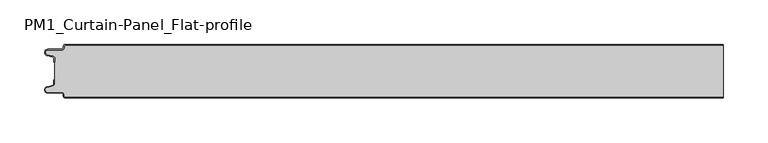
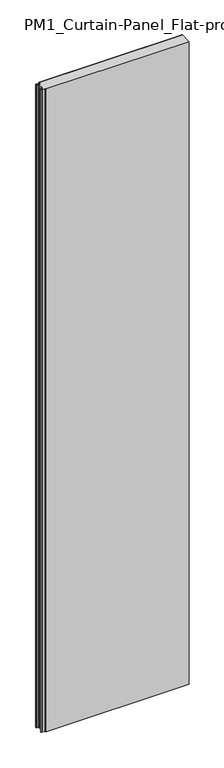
"""IFC4 building model written with IfcOpenShell, lengths in millimetres: plate geometry, PM1_Curtain-Panel_Flat-profile : ACH_PM1_Stone-wool-Panel_60M."""

from ifc_helpers import new_model, si_unit, point, frame_2d, origin, origin_with_axes, place, context, project, spatial, polyline, circle_curve, trimmed, segment, composite_curve, outline, extrude, source, transform, mapped, element, save


def pm1_curtain_panel_flat_profile_6bd34003(model_context):
    return source(origin(), model_context, "Body", "SweptSolid", [
        extrude(outline(composite_curve([segment(trimmed(circle_curve(frame_2d((-362.4, -2.0)), 1.2), [point((-362.4, -0.8))], [point((-363.6, -2.0))], True, "CARTESIAN"), True, "CONTINUOUS"), segment(polyline([(-363.6, -2.0), (-363.6, -3.4)]), True, "CONTINUOUS"), segment(trimmed(circle_curve(frame_2d((-366.4, -3.4)), 2.8), [point((-363.6, -3.4))], [point((-366.4, -6.2))], False, "CARTESIAN"), True, "CONTINUOUS"), segment(polyline([(-366.4, -6.2), (-381.9, -6.2)]), True, "CONTINUOUS"), segment(trimmed(circle_curve(frame_2d((-381.9, -9.0)), 2.8), [point((-381.9, -6.2))], [point((-382.529863, -11.7282362))], True, "CARTESIAN"), True, "CONTINUOUS"), segment(polyline([(-382.529863, -11.7282362), (-376.370137, -13.150321)]), True, "CONTINUOUS"), segment(trimmed(circle_curve(frame_2d((-377.0, -15.878557)), 2.8), [point((-376.370137, -13.150321))], [point((-374.2, -15.878557))], False, "CARTESIAN"), True, "CONTINUOUS"), segment(polyline([(-374.2, -15.878557), (-374.2, -20.0), (-375.0, -20.0), (-375.0, -15.878557)]), True, "CONTINUOUS"), segment(trimmed(circle_curve(frame_2d((-377.0, -15.878557)), 2.0), [point((-375.0, -15.878557))], [point((-376.5500978, -13.9298169))], True, "CARTESIAN"), True, "CONTINUOUS"), segment(polyline([(-376.5500978, -13.9298169), (-382.7098239, -12.507732)]), True, "CONTINUOUS"), segment(trimmed(circle_curve(frame_2d((-381.9, -9.0)), 3.6), [point((-382.7098239, -12.507732))], [point((-381.9, -5.4))], False, "CARTESIAN"), True, "CONTINUOUS"), segment(polyline([(-381.9, -5.4), (-366.4, -5.4)]), True, "CONTINUOUS"), segment(trimmed(circle_curve(frame_2d((-366.4, -3.4)), 2.0), [point((-366.4, -5.4))], [point((-364.4, -3.4))], True, "CARTESIAN"), True, "CONTINUOUS"), segment(polyline([(-364.4, -3.4), (-364.4, -2.0)]), True, "CONTINUOUS"), segment(trimmed(circle_curve(frame_2d((-362.4, -2.0)), 2.0), [point((-364.4, -2.0))], [point((-362.4, 0.0))], False, "CARTESIAN"), True, "CONTINUOUS"), segment(polyline([(-362.4, 0.0), (375.0, 0.0), (375.0, -0.8), (-362.4, -0.8)]), True, "CONTINUOUS")], self_intersect=False)), origin_with_axes(), (0.0, 0.0, 1.0), 3500.0),
        extrude(outline(composite_curve([segment(polyline([(-374.2, -44.1214426), (-374.2, -15.8785573)]), True, "CONTINUOUS"), segment(trimmed(circle_curve(frame_2d((-377.0, -15.8785573)), 2.8), [point((-374.2, -15.8785573))], [point((-376.370137, -13.1503212))], True, "CARTESIAN"), True, "CONTINUOUS"), segment(polyline([(-376.370137, -13.1503212), (-382.5298631, -11.7282362)]), True, "CONTINUOUS"), segment(trimmed(circle_curve(frame_2d((-381.9, -9.0)), 2.8), [point((-382.5298631, -11.7282362))], [point((-381.9, -6.2))], False, "CARTESIAN"), True, "CONTINUOUS"), segment(polyline([(-381.9, -6.2), (-366.4000001, -6.2)]), True, "CONTINUOUS"), segment(trimmed(circle_curve(frame_2d((-366.4000001, -3.4)), 2.8), [point((-366.4000001, -6.2))], [point((-363.6000001, -3.4))], True, "CARTESIAN"), True, "CONTINUOUS"), segment(polyline([(-363.6000001, -3.4), (-363.6000001, -2.0)]), True, "CONTINUOUS"), segment(trimmed(circle_curve(frame_2d((-362.4000001, -2.0)), 1.2), [point((-363.6000001, -2.0))], [point((-362.4000001, -0.8))], False, "CARTESIAN"), True, "CONTINUOUS"), segment(polyline([(-362.4000001, -0.8), (375.0, -0.8), (375.0, -59.2), (-362.4000001, -59.2)]), True, "CONTINUOUS"), segment(trimmed(circle_curve(frame_2d((-362.4000001, -58.0)), 1.2), [point((-362.4000001, -59.2))], [point((-363.6000001, -58.0))], False, "CARTESIAN"), True, "CONTINUOUS"), segment(polyline([(-363.6000001, -58.0), (-363.6000001, -56.6)]), True, "CONTINUOUS"), segment(trimmed(circle_curve(frame_2d((-366.4000001, -56.6)), 2.8), [point((-363.6000001, -56.6))], [point((-366.4000001, -53.8))], True, "CARTESIAN"), True, "CONTINUOUS"), segment(polyline([(-366.4000001, -53.8), (-381.9, -53.8)]), True, "CONTINUOUS"), segment(trimmed(circle_curve(frame_2d((-381.9, -51.0)), 2.8), [point((-381.9, -53.8))], [point((-382.5298631, -48.2717638))], False, "CARTESIAN"), True, "CONTINUOUS"), segment(polyline([(-382.5298631, -48.2717638), (-376.370137, -46.8496788)]), True, "CONTINUOUS"), segment(trimmed(circle_curve(frame_2d((-377.0, -44.1214426)), 2.8), [point((-376.370137, -46.8496788))], [point((-374.2, -44.1214426))], True, "CARTESIAN"), True, "CONTINUOUS")], self_intersect=False)), origin_with_axes(), (0.0, 0.0, 1.0), 3500.0),
        extrude(outline(composite_curve([segment(trimmed(circle_curve(frame_2d((-362.4, -58.0)), 2.0), [point((-362.4, -60.0))], [point((-364.4, -58.0))], False, "CARTESIAN"), True, "CONTINUOUS"), segment(polyline([(-364.4, -58.0), (-364.4, -56.6)]), True, "CONTINUOUS"), segment(trimmed(circle_curve(frame_2d((-366.4, -56.6)), 2.0), [point((-364.4, -56.6))], [point((-366.4, -54.6))], True, "CARTESIAN"), True, "CONTINUOUS"), segment(polyline([(-366.4, -54.6), (-381.9, -54.6)]), True, "CONTINUOUS"), segment(trimmed(circle_curve(frame_2d((-381.9, -51.0)), 3.6), [point((-381.9, -54.6))], [point((-382.7098239, -47.4922678))], False, "CARTESIAN"), True, "CONTINUOUS"), segment(polyline([(-382.7098239, -47.4922678), (-376.5500979, -46.070183)]), True, "CONTINUOUS"), segment(trimmed(circle_curve(frame_2d((-377.0, -44.121443)), 2.0), [point((-376.5500979, -46.070183))], [point((-375.0, -44.121443))], True, "CARTESIAN"), True, "CONTINUOUS"), segment(polyline([(-375.0, -44.121443), (-375.0, -40.0), (-374.2, -40.0), (-374.2, -44.121443)]), True, "CONTINUOUS"), segment(trimmed(circle_curve(frame_2d((-377.0, -44.121443)), 2.8), [point((-374.2, -44.121443))], [point((-376.370137, -46.8496792))], False, "CARTESIAN"), True, "CONTINUOUS"), segment(polyline([(-376.370137, -46.8496792), (-382.529863, -48.271764)]), True, "CONTINUOUS"), segment(trimmed(circle_curve(frame_2d((-381.9, -51.0)), 2.8), [point((-382.529863, -48.271764))], [point((-381.9, -53.8))], True, "CARTESIAN"), True, "CONTINUOUS"), segment(polyline([(-381.9, -53.8), (-366.4, -53.8)]), True, "CONTINUOUS"), segment(trimmed(circle_curve(frame_2d((-366.4, -56.6)), 2.8), [point((-366.4, -53.8))], [point((-363.6, -56.6))], False, "CARTESIAN"), True, "CONTINUOUS"), segment(polyline([(-363.6, -56.6), (-363.6, -58.0)]), True, "CONTINUOUS"), segment(trimmed(circle_curve(frame_2d((-362.4, -58.0)), 1.2), [point((-363.6, -58.0))], [point((-362.4, -59.2))], True, "CARTESIAN"), True, "CONTINUOUS"), segment(polyline([(-362.4, -59.2), (375.0, -59.2), (375.0, -60.0), (-362.4, -60.0)]), True, "CONTINUOUS")], self_intersect=False)), origin_with_axes(), (0.0, 0.0, 1.0), 3500.0),
    ])


if __name__ == "__main__":
    model = new_model("IFC4")
    model_context = context("Model", 3, world=origin())
    ifc_project = project(units=[si_unit("LENGTHUNIT", "METRE", prefix="MILLI")], contexts=[model_context])
    site = spatial("IfcSite", under=ifc_project)
    building = spatial("IfcBuilding", under=site)
    placement = place(None, origin())
    pm1_curtain_panel_flat_profile_shape = pm1_curtain_panel_flat_profile_6bd34003(model_context)
    element("IfcPlate", 1, ObjectType="PM1_Curtain-Panel_Flat-profile : ACH_PM1_Stone-wool-Panel_60M", at=placement, inside=building, context=model_context, shape_type="MappedRepresentation", body=[
        mapped(pm1_curtain_panel_flat_profile_shape, transform((0.0, 0.0, 0.0), x_axis=(1.0, 0.0, 0.0), y_axis=(0.0, 1.0, 0.0), z_axis=(0.0, 0.0, 1.0))),
    ])
    save(model, "model.ifc")
